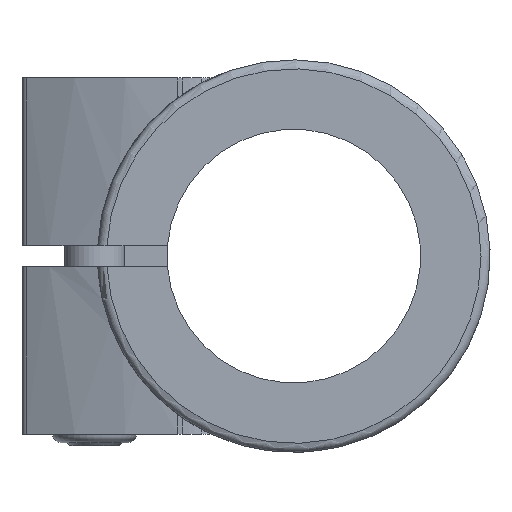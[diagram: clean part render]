
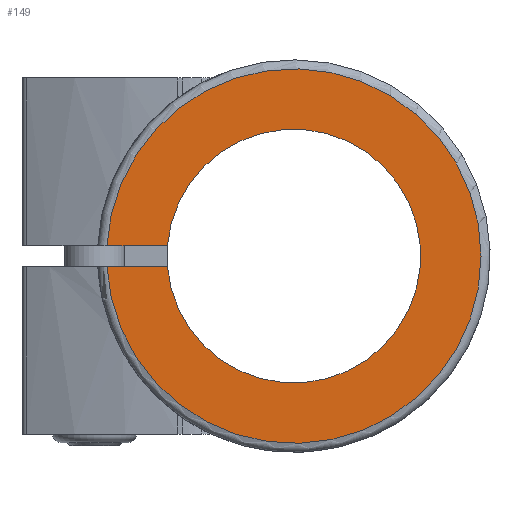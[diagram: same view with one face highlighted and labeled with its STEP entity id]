
A CAD part, left-side view. The second image highlights one B-rep face of the part: STEP entity #149.
In plain terms, the highlighted planar face has unit normal (-1, 0, 0).
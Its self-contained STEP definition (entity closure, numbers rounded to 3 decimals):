
#149 = ADVANCED_FACE( '', ( #404 ), #405, .F. );
#404 = FACE_OUTER_BOUND( '', #758, .T. );
#405 = PLANE( '', #759 );
#758 = EDGE_LOOP( '', ( #1549, #1550, #1551, #1552 ) );
#759 = AXIS2_PLACEMENT_3D( '', #1553, #1554, #1555 );
#1549 = ORIENTED_EDGE( '', *, *, #2522, .F. );
#1550 = ORIENTED_EDGE( '', *, *, #2273, .F. );
#1551 = ORIENTED_EDGE( '', *, *, #2526, .F. );
#1552 = ORIENTED_EDGE( '', *, *, #2287, .F. );
#1553 = CARTESIAN_POINT( '', ( 0., 0., 0. ) );
#1554 = DIRECTION( '', ( 1., 0., 0. ) );
#1555 = DIRECTION( '', ( 0., 0., -1. ) );
#2273 = EDGE_CURVE( '', #2710, #2711, #2712, .T. );
#2287 = EDGE_CURVE( '', #2737, #2739, #2740, .T. );
#2522 = EDGE_CURVE( '', #2711, #2737, #3156, .F. );
#2526 = EDGE_CURVE( '', #2739, #2710, #3160, .T. );
#2710 = VERTEX_POINT( '', #3442 );
#2711 = VERTEX_POINT( '', #3443 );
#2712 = LINE( '', #3444, #3445 );
#2737 = VERTEX_POINT( '', #3489 );
#2739 = VERTEX_POINT( '', #3492 );
#2740 = LINE( '', #3493, #3494 );
#3156 = CIRCLE( '', #4261, 21. );
#3160 = CIRCLE( '', #4265, 31. );
#3442 = CARTESIAN_POINT( '', ( 0., 30.951, -1.75 ) );
#3443 = CARTESIAN_POINT( '', ( 0., 20.927, -1.75 ) );
#3444 = CARTESIAN_POINT( '', ( 0., 0., -1.75 ) );
#3445 = VECTOR( '', #4753, 1000. );
#3489 = CARTESIAN_POINT( '', ( 0., 20.927, 1.75 ) );
#3492 = CARTESIAN_POINT( '', ( 0., 30.951, 1.75 ) );
#3493 = CARTESIAN_POINT( '', ( 0., 0., 1.75 ) );
#3494 = VECTOR( '', #4776, 1000. );
#4261 = AXIS2_PLACEMENT_3D( '', #5137, #5138, #5139 );
#4265 = AXIS2_PLACEMENT_3D( '', #5149, #5150, #5151 );
#4753 = DIRECTION( '', ( 0., -1., 0. ) );
#4776 = DIRECTION( '', ( 0., 1., 0. ) );
#5137 = CARTESIAN_POINT( '', ( 0., 0., 0. ) );
#5138 = DIRECTION( '', ( 1., 0., 0. ) );
#5139 = DIRECTION( '', ( 0., 0., -1. ) );
#5149 = CARTESIAN_POINT( '', ( 0., 0., 0. ) );
#5150 = DIRECTION( '', ( 1., 0., 0. ) );
#5151 = DIRECTION( '', ( 0., 0., -1. ) );
